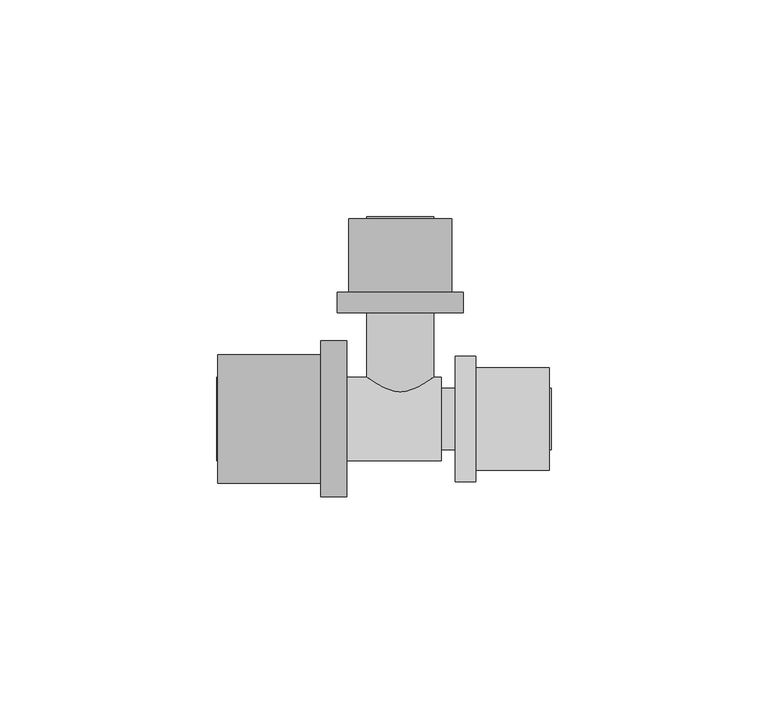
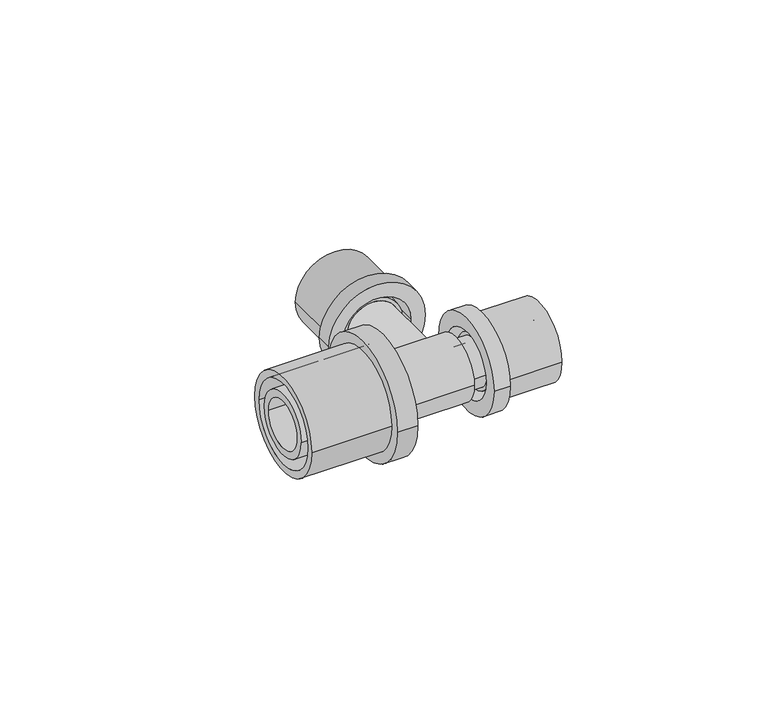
"""IFC4 building model written with IfcOpenShell, lengths in millimetres: pipe fitting geometry, FASTLOC_T-piece_EX+ : FSL T-Piece EX+ AT."""

import ifcopenshell
import ifcopenshell.guid

model = None  # the IFC model being written
_history = None  # IfcOwnerHistory: only IFC2X3 demands one
_inside = {}  # id of a spatial element -> (the spatial element, [elements in it])
_under = {}  # id of a project, library or spatial element -> (it, [spatial elements below it])
_declared = {}  # id of a project -> (the project, [libraries it declares])
_typed = {}  # id of a type object -> (the type object, [elements of that type])
_made_of = {}  # id of a material, layer set ... -> (it, [elements and type objects made of it])


def new_model(schema):
    """Start an empty IFC model of exactly this schema.

    Asked for "IFC4X3", IfcOpenShell would pick the latest addendum, in which some entities
    have other attributes; the version numbers below select the first issue.
    IFC2X3 requires an IfcOwnerHistory on every rooted entity: one is made here for all.
    """
    global model, _history
    if schema == "IFC4X3":
        model = ifcopenshell.file(schema_version=(4, 3, 0, 0))
    else:
        model = ifcopenshell.file(schema=schema)
    _inside.clear()
    _under.clear()
    _declared.clear()
    _typed.clear()
    _made_of.clear()
    _history = None
    if model.schema == "IFC2X3":
        org = make("IfcOrganization", Name="unknown")
        user = make(
            "IfcPersonAndOrganization",
            ThePerson=make("IfcPerson", FamilyName="unknown"),
            TheOrganization=org,
        )
        app = make(
            "IfcApplication",
            ApplicationDeveloper=org,
            Version="unknown",
            ApplicationFullName="unknown",
            ApplicationIdentifier="unknown",
        )
        _history = make(
            "IfcOwnerHistory",
            OwningUser=user,
            OwningApplication=app,
            ChangeAction="ADDED",
            CreationDate=0,
        )
    return model


def make(cls, **values):
    """One entity of the class cls with the attributes given. An attribute that is None is left unset."""
    return model.create_entity(
        cls, **{name: value for name, value in values.items() if value is not None}
    )


def rooted(cls, **values):
    """An entity with a GlobalId (a new one), such as an element, a storey or a relation."""
    return make(cls, GlobalId=ifcopenshell.guid.new(), OwnerHistory=_history, **values)


def si_unit(unit_type, name, prefix=None):
    """IfcSIUnit, for example si_unit("LENGTHUNIT", "METRE", prefix="MILLI")."""
    return make("IfcSIUnit", UnitType=unit_type, Prefix=prefix, Name=name)


def assignment(units):
    """IfcUnitAssignment: the units of a project."""
    return None if units is None else make("IfcUnitAssignment", Units=units)


def point(xyz):
    """IfcCartesianPoint."""
    return None if xyz is None else make("IfcCartesianPoint", Coordinates=xyz)


def direction(xyz):
    """IfcDirection."""
    return None if xyz is None else make("IfcDirection", DirectionRatios=xyz)


def frame(location, z_axis=None, x_axis=None):
    """IfcAxis2Placement3D, a coordinate frame: its origin and axes. An axis left out is left unset."""
    return make(
        "IfcAxis2Placement3D",
        Location=point(location),
        Axis=direction(z_axis),
        RefDirection=direction(x_axis),
    )


def origin():
    """The frame at (0, 0, 0) with its axes left unset."""
    return frame((0.0, 0.0, 0.0))


def place(relative_to, where):
    """IfcLocalPlacement: puts the frame where relative to a parent placement (None: the world)."""
    return make(
        "IfcLocalPlacement", PlacementRelTo=relative_to, RelativePlacement=where
    )


def context(
    kind, dimensions, precision=None, world=None, true_north=None, identifier=None
):
    """IfcGeometricRepresentationContext, for example the 3D "Model" context."""
    return make(
        "IfcGeometricRepresentationContext",
        ContextIdentifier=identifier,
        ContextType=kind,
        CoordinateSpaceDimension=dimensions,
        Precision=precision,
        WorldCoordinateSystem=world,
        TrueNorth=true_north,
    )


def project(units=None, contexts=None):
    """IfcProject with its units and contexts."""
    return rooted(
        "IfcProject",
        Name="project",
        RepresentationContexts=contexts,
        UnitsInContext=assignment(units),
    )


def spatial(cls, under=None, at=None, **own):
    """A site, building, storey or space (cls), placed at a placement, below another one or the project."""
    s = rooted(cls, ObjectPlacement=at, **own)
    if under is not None:
        _under.setdefault(under.id(), (under, []))[1].append(s)
    return s


def polyline(points):
    """IfcPolyline through the points."""
    return make("IfcPolyline", Points=[point(p) for p in points])


def circle_curve(where, radius):
    """IfcCircle in the frame where."""
    return make("IfcCircle", Position=where, Radius=radius)


def shape(context_of_items, identifier, shape_type, items):
    """IfcShapeRepresentation: the items that make up one representation, for example the "Body"."""
    return make(
        "IfcShapeRepresentation",
        ContextOfItems=context_of_items,
        RepresentationIdentifier=identifier,
        RepresentationType=shape_type,
        Items=items,
    )


def source(mapping_origin, context_of_items, identifier, shape_type, items):
    """IfcRepresentationMap: a shape defined once, which mapped items show again and again."""
    return make(
        "IfcRepresentationMap",
        MappingOrigin=mapping_origin,
        MappedRepresentation=shape(context_of_items, identifier, shape_type, items),
    )


def transform(
    local_origin,
    x_axis=None,
    y_axis=None,
    z_axis=None,
    scale=None,
    scale2=None,
    scale3=None,
    uniform=True,
):
    """IfcCartesianTransformationOperator3D, or its non-uniform kind. x_axis, y_axis, z_axis: its Axis1, 2, 3."""
    if uniform:
        return make(
            "IfcCartesianTransformationOperator3D",
            Axis1=direction(x_axis),
            Axis2=direction(y_axis),
            LocalOrigin=point(local_origin),
            Scale=scale,
            Axis3=direction(z_axis),
        )
    return make(
        "IfcCartesianTransformationOperator3DnonUniform",
        Axis1=direction(x_axis),
        Axis2=direction(y_axis),
        LocalOrigin=point(local_origin),
        Scale=scale,
        Axis3=direction(z_axis),
        Scale2=scale2,
        Scale3=scale3,
    )


def mapped(mapping_source, mapping_target):
    """IfcMappedItem: shows the shape of a source again, moved by a transform."""
    return make(
        "IfcMappedItem", MappingSource=mapping_source, MappingTarget=mapping_target
    )


def made_of(thing, what):
    """Note that an element or type object is made of a material, layer set ...; save() writes the relation."""
    if what is not None:
        _made_of.setdefault(what.id(), (what, []))[1].append(thing)
    return thing


def element(
    cls,
    number,
    at=None,
    inside=None,
    cuts=None,
    type_object=None,
    material=None,
    context=None,
    identifier="Body",
    shape_type=None,
    held_by="IfcProductDefinitionShape",
    body=None,
    shapes=None,
    **own,
):
    """One element of the class cls, such as IfcWall. Its Tag is "e" and its number.

    at: its placement. inside: the storey or other place that contains it. cuts: it is an
    opening in that element (IfcRelVoidsElement). A single representation is given by context,
    identifier, shape_type and body (its items); several are given by shapes. held_by: the class
    of the entity that holds the representations. save() writes the other relations.
    """
    e = rooted(cls, Tag="e%d" % number, ObjectPlacement=at, **own)
    if body is not None:
        shapes = [shape(context, identifier, shape_type, body)]
    if shapes is not None:
        e.Representation = make(held_by, Representations=shapes)
    if inside is not None:
        _inside.setdefault(inside.id(), (inside, []))[1].append(e)
    if cuts is not None:
        rooted(
            "IfcRelVoidsElement", RelatingBuildingElement=cuts, RelatedOpeningElement=e
        )
    if type_object is not None:
        _typed.setdefault(type_object.id(), (type_object, []))[1].append(e)
    return made_of(e, material)


def aggregate(whole, parts):
    """IfcRelAggregates: a whole, such as a stair, and the parts it consists of."""
    return rooted("IfcRelAggregates", RelatingObject=whole, RelatedObjects=parts)


def save(model, path):
    """Write the relations noted so far, then the file.

    IfcRelAggregates (storeys below a building ...), IfcRelContainedInSpatialStructure (elements
    in a storey), IfcRelDefinesByType, IfcRelAssociatesMaterial and IfcRelDeclares: one each for
    every whole, place, type object, material and project.
    """
    for whole, parts in _under.values():
        aggregate(whole, parts)
    for where, things in _inside.values():
        rooted(
            "IfcRelContainedInSpatialStructure",
            RelatedElements=things,
            RelatingStructure=where,
        )
    for kind, things in _typed.values():
        rooted("IfcRelDefinesByType", RelatedObjects=things, RelatingType=kind)
    for what, things in _made_of.values():
        rooted("IfcRelAssociatesMaterial", RelatedObjects=things, RelatingMaterial=what)
    for by, libraries in _declared.values():
        rooted("IfcRelDeclares", RelatingContext=by, RelatedDefinitions=libraries)
    model.write(path)


def plane_surface(at):
    """IfcPlane: the flat surface through the origin of the frame at, square to its z axis."""
    return make("IfcPlane", Position=at)


def cylinder_surface(at, radius):
    """IfcCylindricalSurface: all points at the distance radius from the z axis of the frame at."""
    return make("IfcCylindricalSurface", Position=at, Radius=radius)


def revolved_surface(curve, axis_point, axis_direction):
    """IfcSurfaceOfRevolution: the curve turned about the line through axis_point along axis_direction."""
    return make(
        "IfcSurfaceOfRevolution",
        SweptCurve=make("IfcArbitraryOpenProfileDef", ProfileType="CURVE", Curve=curve),
        AxisPosition=make("IfcAxis1Placement", Location=point(axis_point), Axis=direction(axis_direction)),
    )


def advanced_brep(points, edges, surfaces, faces):
    """IfcAdvancedBrep: a solid bounded by faces that lie on surfaces and meet in shared edges.

    An edge is (start, end): straight between two places in points (the first is 0);
    or (start, end, curve); or (start, end, curve, False) where it runs against its curve.
    A face is (place in surfaces, loops), or (place, loops, False) where it looks against
    its surface's normal. A loop lists edges by number (the first is 1), with a minus sign
    where the edge is run from its end to its start. The first loop is the outer one.
    """
    corners = [point(p) for p in points]
    vertices = [make("IfcVertexPoint", VertexGeometry=c) for c in corners]
    made = []
    for start, end, *more in edges:
        made.append(
            make(
                "IfcEdgeCurve",
                EdgeStart=vertices[start],
                EdgeEnd=vertices[end],
                EdgeGeometry=more[0] if more else make("IfcPolyline", Points=[corners[start], corners[end]]),
                SameSense=more[1] if len(more) > 1 else True,
            )
        )
    hull = []
    for where, loops, *sense in faces:
        bounds = []
        for j, loop in enumerate(loops):
            ring = [make("IfcOrientedEdge", EdgeElement=made[abs(k) - 1], Orientation=k > 0) for k in loop]
            bounds.append(
                make(
                    "IfcFaceOuterBound" if j == 0 else "IfcFaceBound",
                    Bound=make("IfcEdgeLoop", EdgeList=ring),
                    Orientation=True,
                )
            )
        hull.append(make("IfcAdvancedFace", Bounds=bounds, FaceSurface=surfaces[where], SameSense=sense[0] if sense else True))
    return make("IfcAdvancedBrep", Outer=make("IfcClosedShell", CfsFaces=hull))


def pipe_fitting_bff7a8e0(model_context):
    return source(origin(), model_context, "Body", "AdvancedBrep", [
        advanced_brep(
        [(17.4, 14.5, 0.0), (17.4, -14.5, 0.0), (12.7, -14.5, 0.0), (12.7, 14.5, 0.0), (34.4, 11.85, 0.0), (34.4, -11.85, 0.0), (17.4, -11.85, 0.0), (17.4, 11.85, 0.0), (12.7, 10.15, 0.0), (12.7, -10.15, 0.0), (34.4, -10.15, 0.0), (34.4, 10.15, 0.0)],
        [
            (0, 1, circle_curve(frame((17.4, 0.0, 0.0), z_axis=(-1.0, 0.0, 0.0), x_axis=(0.0, -1.0, 0.0)), 14.5)),
            (1, 2),
            (2, 3, circle_curve(frame((12.7, 0.0, 0.0), z_axis=(1.0, 0.0, 0.0), x_axis=(0.0, -1.0, 0.0)), 14.5)),
            (3, 0),
            (4, 5, circle_curve(frame((34.4, 0.0, 0.0), z_axis=(-1.0, 0.0, 0.0), x_axis=(0.0, -1.0, 0.0)), 11.85)),
            (5, 6),
            (6, 7, circle_curve(frame((17.4, 0.0, 0.0), z_axis=(1.0, 0.0, 0.0), x_axis=(0.0, -1.0, 0.0)), 11.85)),
            (7, 4),
            (8, 9, circle_curve(frame((12.7, 0.0, 0.0), z_axis=(-1.0, 0.0, 0.0), x_axis=(0.0, -1.0, 0.0)), 10.15)),
            (9, 10),
            (10, 11, circle_curve(frame((34.4, 0.0, 0.0), z_axis=(1.0, 0.0, 0.0), x_axis=(0.0, -1.0, 0.0)), 10.15)),
            (11, 8),
            (1, 0, circle_curve(frame((17.4, 0.0, 0.0), z_axis=(-1.0, 0.0, 0.0), x_axis=(0.0, 1.0, 0.0)), 14.5)),
            (3, 2, circle_curve(frame((12.7, 0.0, 0.0), z_axis=(1.0, 0.0, 0.0), x_axis=(0.0, 1.0, 0.0)), 14.5)),
            (6, 7, circle_curve(frame((17.4, 0.0, 0.0), z_axis=(-1.0, 0.0, 0.0), x_axis=(0.0, 1.0, 0.0)), 11.85)),
            (5, 4, circle_curve(frame((34.4, 0.0, 0.0), z_axis=(-1.0, 0.0, 0.0), x_axis=(0.0, 1.0, 0.0)), 11.85)),
            (10, 11, circle_curve(frame((34.4, 0.0, 0.0), z_axis=(-1.0, 0.0, 0.0), x_axis=(0.0, 1.0, 0.0)), 10.15)),
            (9, 8, circle_curve(frame((12.7, 0.0, 0.0), z_axis=(-1.0, 0.0, 0.0), x_axis=(0.0, 1.0, 0.0)), 10.15)),
        ],
        [
            cylinder_surface(frame((12.7, 0.0, 0.0), z_axis=(1.0, 0.0, 0.0), x_axis=(0.0, -1.0, 0.0)), 14.5),
            cylinder_surface(frame((12.7, 0.0, 0.0), z_axis=(1.0, 0.0, 0.0), x_axis=(0.0, -1.0, 0.0)), 11.85),
            revolved_surface(polyline([(34.4, -10.15, 0.0), (12.7, -10.15, 0.0)]), (12.7, 0.0, 0.0), (1.0, 0.0, 0.0)),
            cylinder_surface(frame((12.7, 0.0, 0.0), z_axis=(1.0, 0.0, 0.0), x_axis=(0.0, 1.0, 0.0)), 14.5),
            plane_surface(frame((17.4, 0.0, 0.0), z_axis=(1.0, 0.0, 0.0), x_axis=(0.0, 1.0, 0.0))),
            cylinder_surface(frame((12.7, 0.0, 0.0), z_axis=(1.0, 0.0, 0.0), x_axis=(0.0, 1.0, 0.0)), 11.85),
            plane_surface(frame((34.4, 0.0, 0.0), z_axis=(1.0, 0.0, 0.0), x_axis=(0.0, 1.0, 0.0))),
            revolved_surface(polyline([(34.4, 10.15, 0.0), (12.7, 10.15, 0.0)]), (12.7, 0.0, 0.0), (1.0, 0.0, 0.0)),
            plane_surface(frame((12.7, 0.0, 0.0), z_axis=(-1.0, 0.0, 0.0), x_axis=(0.0, 1.0, 0.0))),
        ],
        [
            (0, [[1, 2, 3, 4]]),
            (1, [[5, 6, 7, 8]]),
            (2, [[9, 10, 11, 12]]),
            (3, [[13, -4, 14, -2]]),
            (4, [[-13, -1], [15, -7]]),
            (5, [[16, -8, -15, -6]]),
            (6, [[-16, -5], [17, -11]]),
            (7, [[18, -12, -17, -10]]),
            (8, [[-14, -3], [-18, -9]]),
        ],
    ),
        advanced_brep(
        [(-18.3, -18.0, 0.0), (-18.3, 18.0, 0.0), (-12.3, 18.0, 0.0), (-12.3, -18.0, 0.0), (-42.1, -14.85, 0.0), (-42.1, 14.85, 0.0), (-18.3, 14.85, 0.0), (-18.3, -14.85, 0.0), (-12.3, -12.65, 0.0), (-12.3, 12.65, 0.0), (-42.1, 12.65, 0.0), (-42.1, -12.65, 0.0)],
        [
            (0, 1, circle_curve(frame((-18.3, 0.0, 0.0), z_axis=(1.0, 0.0, 0.0), x_axis=(0.0, 1.0, 0.0)), 18.0)),
            (1, 2),
            (2, 3, circle_curve(frame((-12.3, 0.0, 0.0), z_axis=(-1.0, 0.0, 0.0), x_axis=(0.0, 1.0, 0.0)), 18.0)),
            (3, 0),
            (4, 5, circle_curve(frame((-42.1, 0.0, 0.0), z_axis=(1.0, 0.0, 0.0), x_axis=(0.0, 1.0, 0.0)), 14.85)),
            (5, 6),
            (6, 7, circle_curve(frame((-18.3, 0.0, 0.0), z_axis=(-1.0, 0.0, 0.0), x_axis=(0.0, 1.0, 0.0)), 14.85)),
            (7, 4),
            (8, 9, circle_curve(frame((-12.3, 0.0, 0.0), z_axis=(1.0, 0.0, 0.0), x_axis=(0.0, 1.0, 0.0)), 12.65)),
            (9, 10),
            (10, 11, circle_curve(frame((-42.1, 0.0, 0.0), z_axis=(-1.0, 0.0, 0.0), x_axis=(0.0, 1.0, 0.0)), 12.65)),
            (11, 8),
            (1, 0, circle_curve(frame((-18.3, 0.0, 0.0), z_axis=(1.0, 0.0, 0.0), x_axis=(0.0, -1.0, 0.0)), 18.0)),
            (3, 2, circle_curve(frame((-12.3, 0.0, 0.0), z_axis=(-1.0, 0.0, 0.0), x_axis=(0.0, -1.0, 0.0)), 18.0)),
            (6, 7, circle_curve(frame((-18.3, 0.0, 0.0), z_axis=(1.0, 0.0, 0.0), x_axis=(0.0, -1.0, 0.0)), 14.85)),
            (5, 4, circle_curve(frame((-42.1, 0.0, 0.0), z_axis=(1.0, 0.0, 0.0), x_axis=(0.0, -1.0, 0.0)), 14.85)),
            (10, 11, circle_curve(frame((-42.1, 0.0, 0.0), z_axis=(1.0, 0.0, 0.0), x_axis=(0.0, -1.0, 0.0)), 12.65)),
            (9, 8, circle_curve(frame((-12.3, 0.0, 0.0), z_axis=(1.0, 0.0, 0.0), x_axis=(0.0, -1.0, 0.0)), 12.65)),
        ],
        [
            cylinder_surface(frame((-12.3, 0.0, 0.0), z_axis=(-1.0, 0.0, 0.0), x_axis=(0.0, 1.0, 0.0)), 18.0),
            cylinder_surface(frame((-12.3, 0.0, 0.0), z_axis=(-1.0, 0.0, 0.0), x_axis=(0.0, 1.0, 0.0)), 14.85),
            revolved_surface(polyline([(-42.1, 12.65, 0.0), (-12.3, 12.65, 0.0)]), (-12.3, 0.0, 0.0), (-1.0, 0.0, 0.0)),
            cylinder_surface(frame((-12.3, 0.0, 0.0), z_axis=(-1.0, 0.0, 0.0), x_axis=(0.0, -1.0, 0.0)), 18.0),
            plane_surface(frame((-18.3, 0.0, 0.0), z_axis=(-1.0, 0.0, 0.0), x_axis=(0.0, -1.0, 0.0))),
            cylinder_surface(frame((-12.3, 0.0, 0.0), z_axis=(-1.0, 0.0, 0.0), x_axis=(0.0, -1.0, 0.0)), 14.85),
            plane_surface(frame((-42.1, 0.0, 0.0), z_axis=(-1.0, 0.0, 0.0), x_axis=(0.0, -1.0, 0.0))),
            revolved_surface(polyline([(-42.1, -12.65, 0.0), (-12.3, -12.65, 0.0)]), (-12.3, 0.0, 0.0), (-1.0, 0.0, 0.0)),
            plane_surface(frame((-12.3, 0.0, 0.0), z_axis=(1.0, 0.0, 0.0), x_axis=(0.0, -1.0, 0.0))),
        ],
        [
            (0, [[1, 2, 3, 4]]),
            (1, [[5, 6, 7, 8]]),
            (2, [[9, 10, 11, 12]]),
            (3, [[13, -4, 14, -2]]),
            (4, [[-13, -1], [15, -7]]),
            (5, [[16, -8, -15, -6]]),
            (6, [[-16, -5], [17, -11]]),
            (7, [[18, -12, -17, -10]]),
            (8, [[-14, -3], [-18, -9]]),
        ],
    ),
        advanced_brep(
        [(-14.5, 29.2, 0.0), (14.5, 29.2, 0.0), (14.5, 24.5, 0.0), (-14.5, 24.5, 0.0), (-11.85, 46.2, 0.0), (11.85, 46.2, 0.0), (11.85, 29.2, 0.0), (-11.85, 29.2, 0.0), (-10.15, 24.5, 0.0), (10.15, 24.5, 0.0), (10.15, 46.2, 0.0), (-10.15, 46.2, 0.0)],
        [
            (0, 1, circle_curve(frame((0.0, 29.2, 0.0), z_axis=(0.0, -1.0, 0.0), x_axis=(1.0, 0.0, 0.0)), 14.5)),
            (1, 2),
            (2, 3, circle_curve(frame((0.0, 24.5, 0.0), z_axis=(0.0, 1.0, 0.0), x_axis=(1.0, 0.0, 0.0)), 14.5)),
            (3, 0),
            (4, 5, circle_curve(frame((0.0, 46.2, 0.0), z_axis=(0.0, -1.0, 0.0), x_axis=(1.0, 0.0, 0.0)), 11.85)),
            (5, 6),
            (6, 7, circle_curve(frame((0.0, 29.2, 0.0), z_axis=(0.0, 1.0, 0.0), x_axis=(1.0, 0.0, 0.0)), 11.85)),
            (7, 4),
            (8, 9, circle_curve(frame((0.0, 24.5, 0.0), z_axis=(0.0, -1.0, 0.0), x_axis=(1.0, 0.0, 0.0)), 10.15)),
            (9, 10),
            (10, 11, circle_curve(frame((0.0, 46.2, 0.0), z_axis=(0.0, 1.0, 0.0), x_axis=(1.0, 0.0, 0.0)), 10.15)),
            (11, 8),
            (1, 0, circle_curve(frame((0.0, 29.2, 0.0), z_axis=(0.0, -1.0, 0.0), x_axis=(-1.0, 0.0, 0.0)), 14.5)),
            (3, 2, circle_curve(frame((0.0, 24.5, 0.0), z_axis=(0.0, 1.0, 0.0), x_axis=(-1.0, 0.0, 0.0)), 14.5)),
            (6, 7, circle_curve(frame((0.0, 29.2, 0.0), z_axis=(0.0, -1.0, 0.0), x_axis=(-1.0, 0.0, 0.0)), 11.85)),
            (5, 4, circle_curve(frame((0.0, 46.2, 0.0), z_axis=(0.0, -1.0, 0.0), x_axis=(-1.0, 0.0, 0.0)), 11.85)),
            (10, 11, circle_curve(frame((0.0, 46.2, 0.0), z_axis=(0.0, -1.0, 0.0), x_axis=(-1.0, 0.0, 0.0)), 10.15)),
            (9, 8, circle_curve(frame((0.0, 24.5, 0.0), z_axis=(0.0, -1.0, 0.0), x_axis=(-1.0, 0.0, 0.0)), 10.15)),
        ],
        [
            cylinder_surface(frame((0.0, 24.5, 0.0), z_axis=(0.0, 1.0, 0.0), x_axis=(1.0, 0.0, 0.0)), 14.5),
            cylinder_surface(frame((0.0, 24.5, 0.0), z_axis=(0.0, 1.0, 0.0), x_axis=(1.0, 0.0, 0.0)), 11.85),
            revolved_surface(polyline([(10.15, 46.2, 0.0), (10.15, 24.5, 0.0)]), (0.0, 24.5, 0.0), (0.0, 1.0, 0.0)),
            cylinder_surface(frame((0.0, 24.5, 0.0), z_axis=(0.0, 1.0, 0.0), x_axis=(-1.0, 0.0, 0.0)), 14.5),
            plane_surface(frame((0.0, 29.2, 0.0), z_axis=(0.0, 1.0, 0.0), x_axis=(-1.0, 0.0, 0.0))),
            cylinder_surface(frame((0.0, 24.5, 0.0), z_axis=(0.0, 1.0, 0.0), x_axis=(-1.0, 0.0, 0.0)), 11.85),
            plane_surface(frame((0.0, 46.2, 0.0), z_axis=(0.0, 1.0, 0.0), x_axis=(-1.0, 0.0, 0.0))),
            revolved_surface(polyline([(-10.15, 46.2, 0.0), (-10.15, 24.5, 0.0)]), (0.0, 24.5, 0.0), (0.0, 1.0, 0.0)),
            plane_surface(frame((0.0, 24.5, 0.0), z_axis=(0.0, -1.0, 0.0), x_axis=(-1.0, 0.0, 0.0))),
        ],
        [
            (0, [[1, 2, 3, 4]]),
            (1, [[5, 6, 7, 8]]),
            (2, [[9, 10, 11, 12]]),
            (3, [[13, -4, 14, -2]]),
            (4, [[-13, -1], [15, -7]]),
            (5, [[16, -8, -15, -6]]),
            (6, [[-16, -5], [17, -11]]),
            (7, [[18, -12, -17, -10]]),
            (8, [[-14, -3], [-18, -9]]),
        ],
    ),
        advanced_brep(
        [(14.73, 7.1, 0.0), (14.73, -7.1, 0.0), (9.5, -7.1, 0.0), (9.5, 7.1, 0.0), (17.4, 8.15, 0.0), (17.4, -8.15, 0.0), (14.73, -8.15, 0.0), (14.73, 8.15, 0.0), (34.8, 7.1, 0.0), (34.8, -7.1, 0.0), (17.4, -7.1, 0.0), (17.4, 7.1, 0.0), (7.5, 5.1, 0.0), (7.5, -5.1, 0.0), (34.8, -5.1, 0.0), (34.8, 5.1, 0.0), (-42.3, 7.35, 0.0), (-42.3, -7.35, 0.0), (7.5, -7.35, 0.0), (7.5, 7.35, 0.0), (-18.3, 9.6, 0.0), (-18.3, -9.6, 0.0), (-42.3, -9.6, 0.0), (-42.3, 9.6, 0.0), (-15.5, 11.1, 0.0), (-15.5, -11.1, 0.0), (-18.3, -11.1, 0.0), (-18.3, 11.1, 0.0), (9.5, 9.6, 0.0), (9.5, -9.6, 0.0), (-15.5, -9.6, 0.0), (-15.5, 9.6, 0.0)],
        [
            (0, 1, circle_curve(frame((14.73, 0.0, 0.0), z_axis=(-1.0, 0.0, 0.0), x_axis=(0.0, -1.0, 0.0)), 7.1)),
            (1, 2),
            (2, 3, circle_curve(frame((9.5, 0.0, 0.0), z_axis=(1.0, 0.0, 0.0), x_axis=(0.0, -1.0, 0.0)), 7.1)),
            (3, 0),
            (4, 5, circle_curve(frame((17.4, 0.0, 0.0), z_axis=(-1.0, 0.0, 0.0), x_axis=(0.0, -1.0, 0.0)), 8.15)),
            (5, 6),
            (6, 7, circle_curve(frame((14.73, 0.0, 0.0), z_axis=(1.0, 0.0, 0.0), x_axis=(0.0, -1.0, 0.0)), 8.15)),
            (7, 4),
            (8, 9, circle_curve(frame((34.8, 0.0, 0.0), z_axis=(-1.0, 0.0, 0.0), x_axis=(0.0, -1.0, 0.0)), 7.1)),
            (9, 10),
            (10, 11, circle_curve(frame((17.4, 0.0, 0.0), z_axis=(1.0, 0.0, 0.0), x_axis=(0.0, -1.0, 0.0)), 7.1)),
            (11, 8),
            (12, 13, circle_curve(frame((7.5, 0.0, 0.0), z_axis=(-1.0, 0.0, 0.0), x_axis=(0.0, -1.0, 0.0)), 5.1)),
            (13, 14),
            (14, 15, circle_curve(frame((34.8, 0.0, 0.0), z_axis=(1.0, 0.0, 0.0), x_axis=(0.0, -1.0, 0.0)), 5.1)),
            (15, 12),
            (16, 17, circle_curve(frame((-42.3, 0.0, 0.0), z_axis=(-1.0, 0.0, 0.0), x_axis=(0.0, -1.0, 0.0)), 7.35)),
            (17, 18),
            (18, 19, circle_curve(frame((7.5, 0.0, 0.0), z_axis=(1.0, 0.0, 0.0), x_axis=(0.0, -1.0, 0.0)), 7.35)),
            (19, 16),
            (20, 21, circle_curve(frame((-18.3, 0.0, 0.0), z_axis=(-1.0, 0.0, 0.0), x_axis=(0.0, -1.0, 0.0)), 9.6)),
            (21, 22),
            (22, 23, circle_curve(frame((-42.3, 0.0, 0.0), z_axis=(1.0, 0.0, 0.0), x_axis=(0.0, -1.0, 0.0)), 9.6)),
            (23, 20),
            (24, 25, circle_curve(frame((-15.5, 0.0, 0.0), z_axis=(-1.0, 0.0, 0.0), x_axis=(0.0, -1.0, 0.0)), 11.1)),
            (25, 26),
            (26, 27, circle_curve(frame((-18.3, 0.0, 0.0), z_axis=(1.0, 0.0, 0.0), x_axis=(0.0, -1.0, 0.0)), 11.1)),
            (27, 24),
            (28, 29, circle_curve(frame((9.5, 0.0, 0.0), z_axis=(-1.0, 0.0, 0.0), x_axis=(0.0, -1.0, 0.0)), 9.6)),
            (29, 30),
            (30, 31, circle_curve(frame((-15.5, 0.0, 0.0), z_axis=(1.0, 0.0, 0.0), x_axis=(0.0, -1.0, 0.0)), 9.6)),
            (31, 28),
            (28, 29, circle_curve(frame((9.5, 0.0, 0.0), z_axis=(1.0, 0.0, 0.0), x_axis=(0.0, 1.0, 0.0)), 9.6)),
            (2, 3, circle_curve(frame((9.5, 0.0, 0.0), z_axis=(-1.0, 0.0, 0.0), x_axis=(0.0, 1.0, 0.0)), 7.1)),
            (1, 0, circle_curve(frame((14.73, 0.0, 0.0), z_axis=(-1.0, 0.0, 0.0), x_axis=(0.0, 1.0, 0.0)), 7.1)),
            (6, 7, circle_curve(frame((14.73, 0.0, 0.0), z_axis=(-1.0, 0.0, 0.0), x_axis=(0.0, 1.0, 0.0)), 8.15)),
            (5, 4, circle_curve(frame((17.4, 0.0, 0.0), z_axis=(-1.0, 0.0, 0.0), x_axis=(0.0, 1.0, 0.0)), 8.15)),
            (10, 11, circle_curve(frame((17.4, 0.0, 0.0), z_axis=(-1.0, 0.0, 0.0), x_axis=(0.0, 1.0, 0.0)), 7.1)),
            (9, 8, circle_curve(frame((34.8, 0.0, 0.0), z_axis=(-1.0, 0.0, 0.0), x_axis=(0.0, 1.0, 0.0)), 7.1)),
            (14, 15, circle_curve(frame((34.8, 0.0, 0.0), z_axis=(-1.0, 0.0, 0.0), x_axis=(0.0, 1.0, 0.0)), 5.1)),
            (13, 12, circle_curve(frame((7.5, 0.0, 0.0), z_axis=(-1.0, 0.0, 0.0), x_axis=(0.0, 1.0, 0.0)), 5.1)),
            (18, 19, circle_curve(frame((7.5, 0.0, 0.0), z_axis=(-1.0, 0.0, 0.0), x_axis=(0.0, 1.0, 0.0)), 7.35)),
            (17, 16, circle_curve(frame((-42.3, 0.0, 0.0), z_axis=(-1.0, 0.0, 0.0), x_axis=(0.0, 1.0, 0.0)), 7.35)),
            (22, 23, circle_curve(frame((-42.3, 0.0, 0.0), z_axis=(-1.0, 0.0, 0.0), x_axis=(0.0, 1.0, 0.0)), 9.6)),
            (21, 20, circle_curve(frame((-18.3, 0.0, 0.0), z_axis=(-1.0, 0.0, 0.0), x_axis=(0.0, 1.0, 0.0)), 9.6)),
            (26, 27, circle_curve(frame((-18.3, 0.0, 0.0), z_axis=(-1.0, 0.0, 0.0), x_axis=(0.0, 1.0, 0.0)), 11.1)),
            (25, 24, circle_curve(frame((-15.5, 0.0, 0.0), z_axis=(-1.0, 0.0, 0.0), x_axis=(0.0, 1.0, 0.0)), 11.1)),
            (30, 31, circle_curve(frame((-15.5, 0.0, 0.0), z_axis=(-1.0, 0.0, 0.0), x_axis=(0.0, 1.0, 0.0)), 9.6)),
        ],
        [
            cylinder_surface(frame((0.0, 0.0, 0.0), z_axis=(1.0, 0.0, 0.0), x_axis=(0.0, -1.0, 0.0)), 7.1),
            cylinder_surface(frame((0.0, 0.0, 0.0), z_axis=(1.0, 0.0, 0.0), x_axis=(0.0, -1.0, 0.0)), 8.15),
            revolved_surface(polyline([(34.8, -5.1, 0.0), (7.5, -5.1, 0.0)]), (0.0, 0.0, 0.0), (1.0, 0.0, 0.0)),
            revolved_surface(polyline([(7.5, -7.35, 0.0), (-42.3, -7.35, 0.0)]), (0.0, 0.0, 0.0), (1.0, 0.0, 0.0)),
            cylinder_surface(frame((0.0, 0.0, 0.0), z_axis=(1.0, 0.0, 0.0), x_axis=(0.0, -1.0, 0.0)), 9.6),
            cylinder_surface(frame((0.0, 0.0, 0.0), z_axis=(1.0, 0.0, 0.0), x_axis=(0.0, -1.0, 0.0)), 11.1),
            plane_surface(frame((9.5, 0.0, 0.0), z_axis=(1.0, 0.0, 0.0), x_axis=(0.0, 1.0, 0.0))),
            cylinder_surface(frame((0.0, 0.0, 0.0), z_axis=(1.0, 0.0, 0.0), x_axis=(0.0, 1.0, 0.0)), 7.1),
            plane_surface(frame((14.73, 0.0, 0.0), z_axis=(-1.0, 0.0, 0.0), x_axis=(0.0, 1.0, 0.0))),
            cylinder_surface(frame((0.0, 0.0, 0.0), z_axis=(1.0, 0.0, 0.0), x_axis=(0.0, 1.0, 0.0)), 8.15),
            plane_surface(frame((17.4, 0.0, 0.0), z_axis=(1.0, 0.0, 0.0), x_axis=(0.0, 1.0, 0.0))),
            plane_surface(frame((34.8, 0.0, 0.0), z_axis=(1.0, 0.0, 0.0), x_axis=(0.0, 1.0, 0.0))),
            revolved_surface(polyline([(34.8, 5.1, 0.0), (7.5, 5.1, 0.0)]), (0.0, 0.0, 0.0), (1.0, 0.0, 0.0)),
            plane_surface(frame((7.5, 0.0, 0.0), z_axis=(-1.0, 0.0, 0.0), x_axis=(0.0, 1.0, 0.0))),
            revolved_surface(polyline([(7.5, 7.35, 0.0), (-42.3, 7.35, 0.0)]), (0.0, 0.0, 0.0), (1.0, 0.0, 0.0)),
            plane_surface(frame((-42.3, 0.0, 0.0), z_axis=(-1.0, 0.0, 0.0), x_axis=(0.0, 1.0, 0.0))),
            cylinder_surface(frame((0.0, 0.0, 0.0), z_axis=(1.0, 0.0, 0.0), x_axis=(0.0, 1.0, 0.0)), 9.6),
            plane_surface(frame((-18.3, 0.0, 0.0), z_axis=(-1.0, 0.0, 0.0), x_axis=(0.0, 1.0, 0.0))),
            cylinder_surface(frame((0.0, 0.0, 0.0), z_axis=(1.0, 0.0, 0.0), x_axis=(0.0, 1.0, 0.0)), 11.1),
            plane_surface(frame((-15.5, 0.0, 0.0), z_axis=(1.0, 0.0, 0.0), x_axis=(0.0, 1.0, 0.0))),
        ],
        [
            (0, [[1, 2, 3, 4]]),
            (1, [[5, 6, 7, 8]]),
            (0, [[9, 10, 11, 12]]),
            (2, [[13, 14, 15, 16]]),
            (3, [[17, 18, 19, 20]]),
            (4, [[21, 22, 23, 24]]),
            (5, [[25, 26, 27, 28]]),
            (4, [[29, 30, 31, 32]]),
            (6, [[33, -29], [34, -3]]),
            (7, [[35, -4, -34, -2]]),
            (8, [[36, -7], [-35, -1]]),
            (9, [[37, -8, -36, -6]]),
            (10, [[-37, -5], [38, -11]]),
            (7, [[39, -12, -38, -10]]),
            (11, [[-39, -9], [40, -15]]),
            (12, [[41, -16, -40, -14]]),
            (13, [[42, -19], [-41, -13]]),
            (14, [[43, -20, -42, -18]]),
            (15, [[44, -23], [-43, -17]]),
            (16, [[45, -24, -44, -22]]),
            (17, [[46, -27], [-45, -21]]),
            (18, [[47, -28, -46, -26]]),
            (19, [[-47, -25], [48, -31]]),
            (16, [[-33, -32, -48, -30]]),
        ],
    ),
        advanced_brep(
        [(5.75, 46.6, 0.0), (-5.75, 46.6, 0.0), (-5.75, 0.0, 0.0), (5.75, 0.0, 0.0), (7.75, 0.0, 0.0), (-7.75, 0.0, 0.0), (-7.75, 26.53, 0.0), (7.75, 26.53, 0.0), (8.8, 26.53, 0.0), (-8.8, 26.53, 0.0), (-8.8, 29.2, 0.0), (8.8, 29.2, 0.0), (7.75, 29.2, 0.0), (-7.75, 29.2, 0.0), (-7.75, 46.6, 0.0), (7.75, 46.6, 0.0)],
        [
            (0, 1, circle_curve(frame((0.0, 46.6, 0.0), z_axis=(0.0, 1.0, 0.0), x_axis=(-1.0, 0.0, 0.0)), 5.75)),
            (1, 2),
            (2, 3, circle_curve(frame((0.0, 0.0, 0.0), z_axis=(0.0, -1.0, 0.0), x_axis=(-1.0, 0.0, 0.0)), 5.75)),
            (3, 0),
            (4, 5, circle_curve(frame((0.0, 0.0, 0.0), z_axis=(0.0, 1.0, 0.0), x_axis=(-1.0, 0.0, 0.0)), 7.75)),
            (5, 6),
            (6, 7, circle_curve(frame((0.0, 26.53, 0.0), z_axis=(0.0, -1.0, 0.0), x_axis=(-1.0, 0.0, 0.0)), 7.75)),
            (7, 4),
            (8, 9, circle_curve(frame((0.0, 26.53, 0.0), z_axis=(0.0, 1.0, 0.0), x_axis=(-1.0, 0.0, 0.0)), 8.8)),
            (9, 10),
            (10, 11, circle_curve(frame((0.0, 29.2, 0.0), z_axis=(0.0, -1.0, 0.0), x_axis=(-1.0, 0.0, 0.0)), 8.8)),
            (11, 8),
            (12, 13, circle_curve(frame((0.0, 29.2, 0.0), z_axis=(0.0, 1.0, 0.0), x_axis=(-1.0, 0.0, 0.0)), 7.75)),
            (13, 14),
            (14, 15, circle_curve(frame((0.0, 46.6, 0.0), z_axis=(0.0, -1.0, 0.0), x_axis=(-1.0, 0.0, 0.0)), 7.75)),
            (15, 12),
            (1, 0, circle_curve(frame((0.0, 46.6, 0.0), z_axis=(0.0, 1.0, 0.0), x_axis=(1.0, 0.0, 0.0)), 5.75)),
            (3, 2, circle_curve(frame((0.0, 0.0, 0.0), z_axis=(0.0, -1.0, 0.0), x_axis=(1.0, 0.0, 0.0)), 5.75)),
            (4, 5, circle_curve(frame((0.0, 0.0, 0.0), z_axis=(0.0, -1.0, 0.0), x_axis=(1.0, 0.0, 0.0)), 7.75)),
            (7, 6, circle_curve(frame((0.0, 26.53, 0.0), z_axis=(0.0, -1.0, 0.0), x_axis=(1.0, 0.0, 0.0)), 7.75)),
            (8, 9, circle_curve(frame((0.0, 26.53, 0.0), z_axis=(0.0, -1.0, 0.0), x_axis=(1.0, 0.0, 0.0)), 8.8)),
            (11, 10, circle_curve(frame((0.0, 29.2, 0.0), z_axis=(0.0, -1.0, 0.0), x_axis=(1.0, 0.0, 0.0)), 8.8)),
            (12, 13, circle_curve(frame((0.0, 29.2, 0.0), z_axis=(0.0, -1.0, 0.0), x_axis=(1.0, 0.0, 0.0)), 7.75)),
            (15, 14, circle_curve(frame((0.0, 46.6, 0.0), z_axis=(0.0, -1.0, 0.0), x_axis=(1.0, 0.0, 0.0)), 7.75)),
        ],
        [
            revolved_surface(polyline([(-5.75, 0.0, 0.0), (-5.75, 46.6, 0.0)]), (0.0, 0.0, 0.0), (0.0, -1.0, 0.0)),
            cylinder_surface(frame((0.0, 0.0, 0.0), z_axis=(0.0, -1.0, 0.0), x_axis=(-1.0, 0.0, 0.0)), 7.75),
            cylinder_surface(frame((0.0, 0.0, 0.0), z_axis=(0.0, -1.0, 0.0), x_axis=(-1.0, 0.0, 0.0)), 8.8),
            revolved_surface(polyline([(5.75, 0.0, 0.0), (5.75, 46.6, 0.0)]), (0.0, 0.0, 0.0), (0.0, -1.0, 0.0)),
            plane_surface(frame((0.0, 0.0, 0.0), z_axis=(0.0, -1.0, 0.0), x_axis=(1.0, 0.0, 0.0))),
            cylinder_surface(frame((0.0, 0.0, 0.0), z_axis=(0.0, -1.0, 0.0), x_axis=(1.0, 0.0, 0.0)), 7.75),
            plane_surface(frame((0.0, 26.53, 0.0), z_axis=(0.0, -1.0, 0.0), x_axis=(1.0, 0.0, 0.0))),
            cylinder_surface(frame((0.0, 0.0, 0.0), z_axis=(0.0, -1.0, 0.0), x_axis=(1.0, 0.0, 0.0)), 8.8),
            plane_surface(frame((0.0, 29.2, 0.0), z_axis=(0.0, 1.0, 0.0), x_axis=(1.0, 0.0, 0.0))),
            plane_surface(frame((0.0, 46.6, 0.0), z_axis=(0.0, 1.0, 0.0), x_axis=(1.0, 0.0, 0.0))),
        ],
        [
            (0, [[1, 2, 3, 4]]),
            (1, [[5, 6, 7, 8]]),
            (2, [[9, 10, 11, 12]]),
            (1, [[13, 14, 15, 16]]),
            (3, [[17, -4, 18, -2]]),
            (4, [[19, -5], [-18, -3]]),
            (5, [[-19, -8, 20, -6]]),
            (6, [[21, -9], [-20, -7]]),
            (7, [[-21, -12, 22, -10]]),
            (8, [[-22, -11], [23, -13]]),
            (5, [[-23, -16, 24, -14]]),
            (9, [[-24, -15], [-17, -1]]),
        ],
    ),
    ])


if __name__ == "__main__":
    model = new_model("IFC4")
    model_context = context("Model", 3, world=origin())
    ifc_project = project(units=[si_unit("LENGTHUNIT", "METRE", prefix="MILLI")], contexts=[model_context])
    site = spatial("IfcSite", under=ifc_project)
    building = spatial("IfcBuilding", under=site)
    placement = place(None, origin())
    pipe_fitting_shape = pipe_fitting_bff7a8e0(model_context)
    element("IfcPipeFitting", 1, ObjectType="FASTLOC_T-piece_EX+ : FSL T-Piece EX+ AT", at=placement, inside=building, context=model_context, shape_type="MappedRepresentation", body=[
        mapped(pipe_fitting_shape, transform((0.0, 0.0, 0.0), x_axis=(1.0, 0.0, 0.0), y_axis=(0.0, 1.0, 0.0), z_axis=(0.0, 0.0, 1.0))),
    ])
    save(model, "model.ifc")
